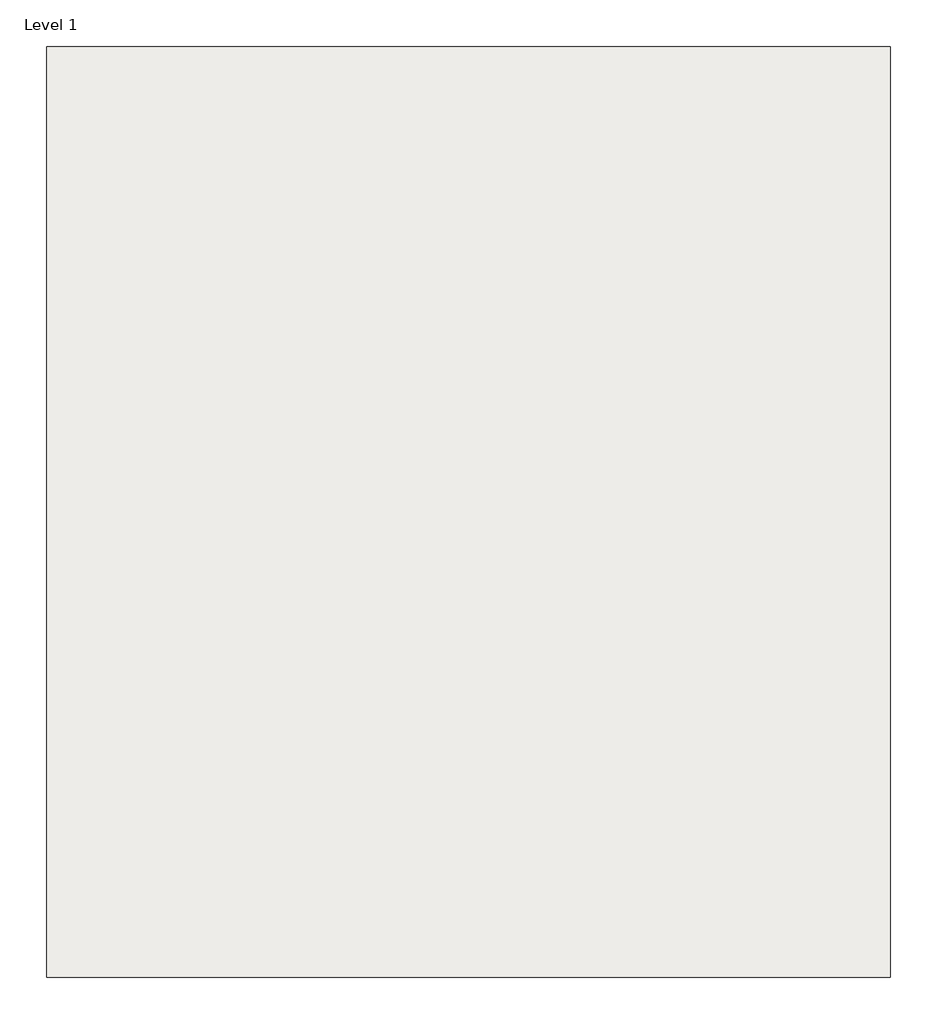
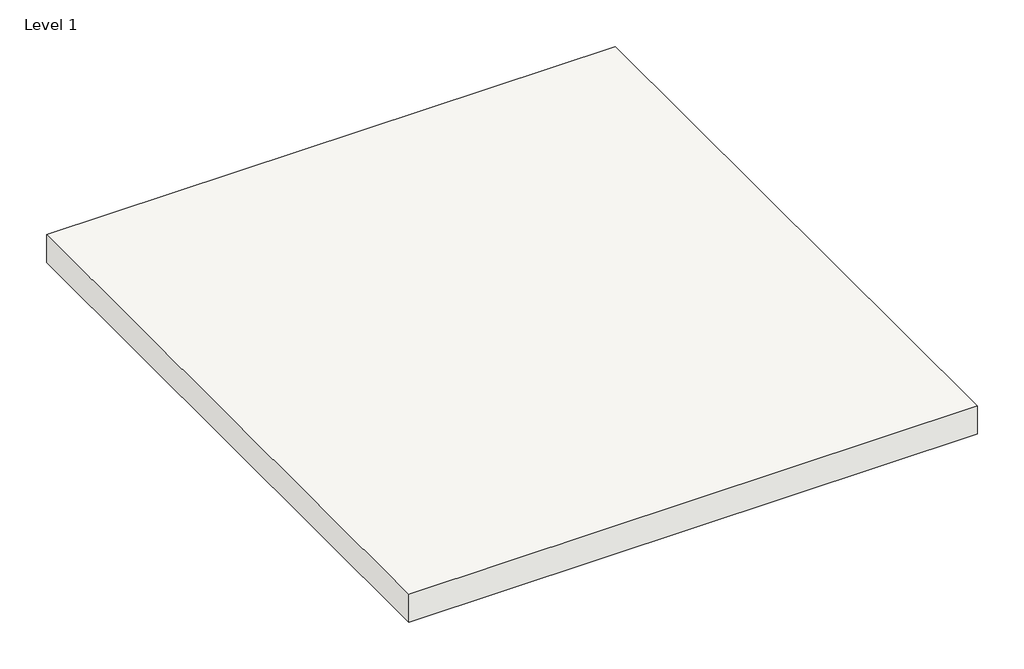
# One storey, incomplete: 1 slab.
"""IFC4 building model written with IfcOpenShell, lengths in millimetres."""

from ifc_helpers import new_model, si_unit, frame, origin, place, context, project, spatial, polyline, outline, extrude, element, save

model = new_model("IFC4")

# Units and contexts
model_context = context("Model", 3, world=origin())
ifc_project = project(units=[si_unit("LENGTHUNIT", "METRE", prefix="MILLI")], contexts=[model_context])

# Site, building, storey
site = spatial("IfcSite", under=ifc_project)
building = spatial("IfcBuilding", under=site)
storey = spatial("IfcBuildingStorey", under=building, Name="Level 1", Elevation=0.0)

# Slab
placement = place(None, origin())
element("IfcSlab", 1, ObjectType="Floor 1", at=placement, inside=storey, context=model_context, shape_type="SweptSolid", body=[
    extrude(outline(polyline([(-27832.1822146, -14689.2185093), (-27832.1822146, -21089.2185093), (-33632.1822146, -21089.2185093), (-33632.1822146, -14689.2185093), (-27832.1822146, -14689.2185093)])), frame((0.0, 0.0, -300.0), z_axis=(0.0, 0.0, 1.0), x_axis=(1.0, 0.0, 0.0)), (0.0, 0.0, 1.0), 300.0),
])

save(model, "model.ifc")
